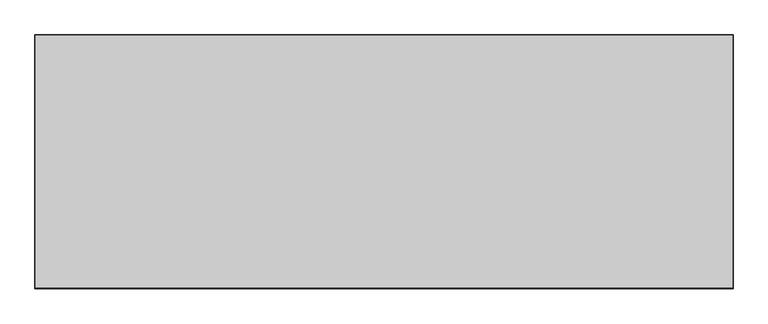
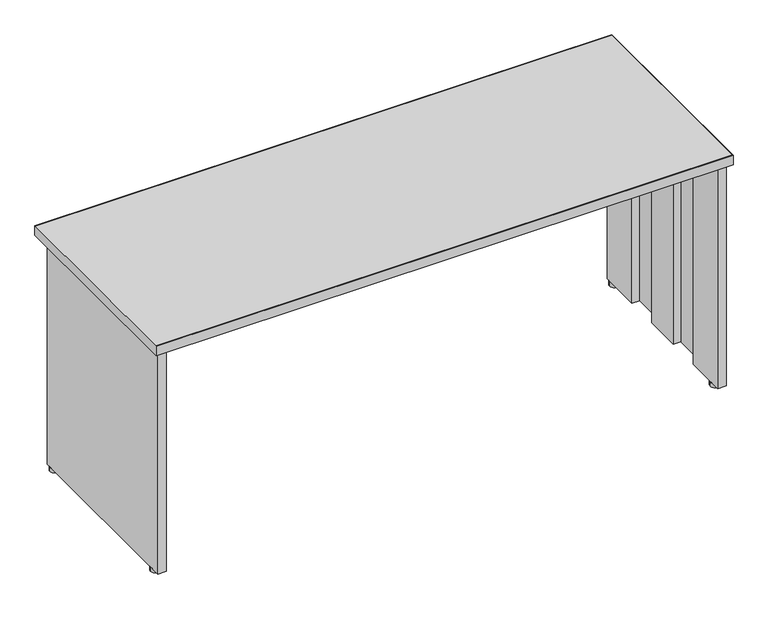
"""IFC4 building model written with IfcOpenShell, lengths in millimetres: furniture geometry, Steelcase - Kick Freestanding - Desk Shell - Partial Height Modesty Panel : 24D x 66W."""

from ifc_helpers import new_model, si_unit, point, frame, frame_2d, origin, origin_with_axes, place, context, project, spatial, polyline, circle_curve, trimmed, segment, composite_curve, outline, extrude, source, transform, mapped, element, save


def furniture_85634547(model_context):
    return source(origin(), model_context, "Body", "SweptSolid", [
        extrude(outline(polyline([(677.0450425, -999.9647597), (677.0450425, -974.5647604), (2279.0738425, -974.5647604), (2279.0738425, -999.9647597), (677.0450425, -999.9647597)])), frame((0.0, 0.0, 390.144), z_axis=(0.0, 0.0, 1.0), x_axis=(1.0, 0.0, 0.0)), (0.0, 0.0, 1.0), 304.8),
        extrude(outline(composite_curve([segment(trimmed(circle_curve(frame_2d((665.1357759, -986.9367877)), 13.97), [point((651.1657759, -986.9367877))], [point((679.1057759, -986.9367877))], False, "CARTESIAN"), True, "CONTINUOUS"), segment(trimmed(circle_curve(frame_2d((665.1357759, -986.9367877)), 13.97), [point((679.1057759, -986.9367877))], [point((651.1657759, -986.9367877))], False, "CARTESIAN"), True, "CONTINUOUS")], self_intersect=False)), origin_with_axes(), (0.0, 0.0, 1.0), 12.446),
        extrude(outline(composite_curve([segment(trimmed(circle_curve(frame_2d((665.1357759, -1493.6441481)), 13.97), [point((651.1657759, -1493.6441481))], [point((679.1057759, -1493.6441481))], False, "CARTESIAN"), True, "CONTINUOUS"), segment(trimmed(circle_curve(frame_2d((665.1357759, -1493.6441481)), 13.97), [point((679.1057759, -1493.6441481))], [point((651.1657759, -1493.6441481))], False, "CARTESIAN"), True, "CONTINUOUS")], self_intersect=False)), origin_with_axes(), (0.0, 0.0, 1.0), 12.446),
        extrude(outline(polyline([(2279.0738425, -1096.0529604), (2279.0738425, -972.7867604), (2303.5594421, -972.7867604), (2303.5594421, -1528.538741), (2279.0738421, -1528.538741), (2279.0738421, -1404.2311348), (2301.5020425, -1404.2311348), (2301.5020425, -1304.5107682), (2279.0738421, -1304.5107682), (2279.0738421, -1195.7733647), (2301.5020425, -1195.7733647), (2301.5020425, -1096.0529604), (2279.0738425, -1096.0529604)])), frame((0.0, 0.0, 12.446), z_axis=(0.0, 0.0, 1.0), x_axis=(1.0, 0.0, 0.0)), (0.0, 0.0, 1.0), 682.498),
        extrude(outline(polyline([(677.0450425, -1096.0529604), (654.6168425, -1096.0529604), (654.6168425, -1195.7733647), (677.0450429, -1195.7733647), (677.0450429, -1304.5107682), (654.6168425, -1304.5107682), (654.6168425, -1404.2311348), (677.0450429, -1404.2311348), (677.0450429, -1528.538741), (652.5594429, -1528.538741), (652.5594429, -972.7867604), (677.0450425, -972.7867604), (677.0450425, -1096.0529604)])), frame((0.0, 0.0, 12.446), z_axis=(0.0, 0.0, 1.0), x_axis=(1.0, 0.0, 0.0)), (0.0, 0.0, 1.0), 682.498),
        extrude(outline(polyline([(2315.2688425, -932.6293604), (2315.2688425, -1538.2669215), (640.8500425, -1538.2669215), (640.8500425, -932.6293604), (2315.2688425, -932.6293604)])), frame((0.0, 0.0, 694.944), z_axis=(0.0, 0.0, 1.0), x_axis=(1.0, 0.0, 0.0)), (0.0, 0.0, 1.0), 28.956),
        extrude(outline(polyline([(2316.2594425, -931.6387604), (2316.2594425, -1541.2387604), (639.8594425, -1541.2387604), (639.8594425, -931.6387604), (2316.2594425, -931.6387604)]), holes=[polyline([(2315.2688425, -932.6293604), (640.8500425, -932.6293604), (640.8500425, -1538.2669215), (2315.2688425, -1538.2669215), (2315.2688425, -932.6293604)])]), frame((0.0, 0.0, 694.944), z_axis=(0.0, 0.0, 1.0), x_axis=(1.0, 0.0, 0.0)), (0.0, 0.0, 1.0), 28.956),
        extrude(outline(composite_curve([segment(trimmed(circle_curve(frame_2d((2290.9831091, -1493.6441481)), 13.97), [point((2277.0131091, -1493.6441481))], [point((2304.9531091, -1493.6441481))], False, "CARTESIAN"), True, "CONTINUOUS"), segment(trimmed(circle_curve(frame_2d((2290.9831091, -1493.6441481)), 13.97), [point((2304.9531091, -1493.6441481))], [point((2277.0131091, -1493.6441481))], False, "CARTESIAN"), True, "CONTINUOUS")], self_intersect=False)), origin_with_axes(), (0.0, 0.0, 1.0), 12.446),
        extrude(outline(composite_curve([segment(trimmed(circle_curve(frame_2d((2290.9831091, -986.9367877)), 13.97), [point((2304.9531091, -986.9367877))], [point((2277.0131091, -986.9367877))], False, "CARTESIAN"), True, "CONTINUOUS"), segment(trimmed(circle_curve(frame_2d((2290.9831091, -986.9367877)), 13.97), [point((2277.0131091, -986.9367877))], [point((2304.9531091, -986.9367877))], False, "CARTESIAN"), True, "CONTINUOUS")], self_intersect=False)), origin_with_axes(), (0.0, 0.0, 1.0), 12.446),
    ])


if __name__ == "__main__":
    model = new_model("IFC4")
    model_context = context("Model", 3, world=origin())
    ifc_project = project(units=[si_unit("LENGTHUNIT", "METRE", prefix="MILLI")], contexts=[model_context])
    site = spatial("IfcSite", under=ifc_project)
    building = spatial("IfcBuilding", under=site)
    placement = place(None, origin())
    furniture_shape = furniture_85634547(model_context)
    element("IfcFurniture", 1, ObjectType="Steelcase - Kick Freestanding - Desk Shell - Partial Height Modesty Panel : 24D x 66W", at=placement, inside=building, context=model_context, shape_type="MappedRepresentation", body=[
        mapped(furniture_shape, transform((0.0, 0.0, 0.0), x_axis=(1.0, 0.0, 0.0), y_axis=(0.0, 1.0, 0.0), z_axis=(0.0, 0.0, 1.0))),
    ])
    save(model, "model.ifc")
